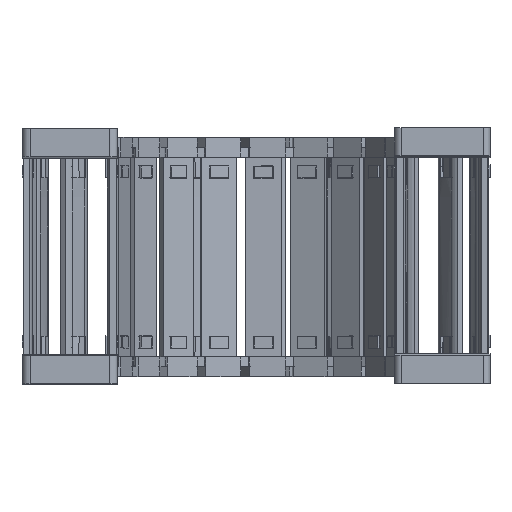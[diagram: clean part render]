
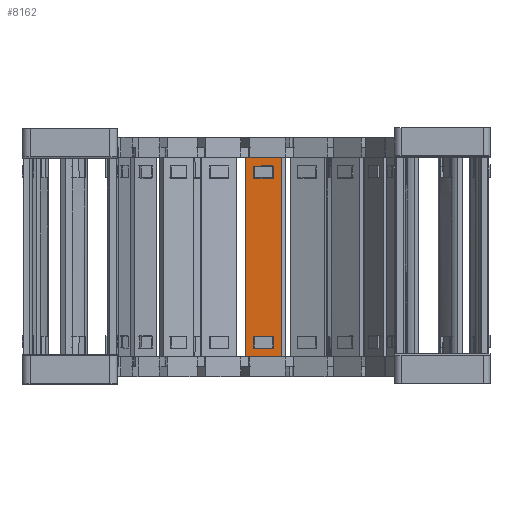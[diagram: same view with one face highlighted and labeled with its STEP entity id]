
A CAD part, top view. The second image highlights one B-rep face of the part: STEP entity #8162.
In plain terms, the highlighted planar face has unit normal (-0.044, 0, 0.999).
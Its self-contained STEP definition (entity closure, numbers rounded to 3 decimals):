
#8162=ADVANCED_FACE('',(#34153,#34154,#34155),#12009,.F.);
#12009=PLANE('',#94497);
#18798=LINE('',#136860,#28174);
#18852=LINE('',#137019,#28228);
#18917=LINE('',#137379,#28293);
#18918=LINE('',#137381,#28294);
#18922=LINE('',#137389,#28298);
#19015=LINE('',#137690,#28391);
#19049=LINE('',#137800,#28425);
#19098=LINE('',#138124,#28474);
#19102=LINE('',#138136,#28478);
#19113=LINE('',#138161,#28489);
#19117=LINE('',#138168,#28493);
#19119=LINE('',#138172,#28495);
#19124=LINE('',#138202,#28500);
#19128=LINE('',#138212,#28504);
#19133=LINE('',#138244,#28509);
#19134=LINE('',#138245,#28510);
#19135=LINE('',#138246,#28511);
#19136=LINE('',#138248,#28512);
#28174=VECTOR('',#107755,1.);
#28228=VECTOR('',#107845,1.);
#28293=VECTOR('',#108062,1.);
#28294=VECTOR('',#108065,1.);
#28298=VECTOR('',#108071,1.);
#28391=VECTOR('',#108280,1.);
#28425=VECTOR('',#108338,1.);
#28474=VECTOR('',#108521,1.);
#28478=VECTOR('',#108531,1.);
#28489=VECTOR('',#108552,1.);
#28493=VECTOR('',#108558,1.);
#28495=VECTOR('',#108562,1.);
#28500=VECTOR('',#108575,1.);
#28504=VECTOR('',#108585,1.);
#28509=VECTOR('',#108604,1.);
#28510=VECTOR('',#108605,1.);
#28511=VECTOR('',#108606,1.);
#28512=VECTOR('',#108607,1.);
#34153=FACE_BOUND('',#36376,.T.);
#34154=FACE_BOUND('',#36377,.T.);
#34155=FACE_BOUND('',#36378,.T.);
#36376=EDGE_LOOP('',(#50539,#50540,#50541,#50542,#50543,#50544));
#36377=EDGE_LOOP('',(#50545,#50546,#50547,#50548,#50549,#50550));
#36378=EDGE_LOOP('',(#50551,#50552,#50553,#50554,#50555,#50556));
#50539=ORIENTED_EDGE('',*,*,#81401,.T.);
#50540=ORIENTED_EDGE('',*,*,#81349,.F.);
#50541=ORIENTED_EDGE('',*,*,#81216,.F.);
#50542=ORIENTED_EDGE('',*,*,#81373,.F.);
#50543=ORIENTED_EDGE('',*,*,#80906,.F.);
#50544=ORIENTED_EDGE('',*,*,#81083,.F.);
#50545=ORIENTED_EDGE('',*,*,#81402,.F.);
#50546=ORIENTED_EDGE('',*,*,#81383,.T.);
#50547=ORIENTED_EDGE('',*,*,#81371,.T.);
#50548=ORIENTED_EDGE('',*,*,#81355,.F.);
#50549=ORIENTED_EDGE('',*,*,#81258,.F.);
#50550=ORIENTED_EDGE('',*,*,#81388,.F.);
#50551=ORIENTED_EDGE('',*,*,#81084,.F.);
#50552=ORIENTED_EDGE('',*,*,#81367,.T.);
#50553=ORIENTED_EDGE('',*,*,#81403,.T.);
#50554=ORIENTED_EDGE('',*,*,#81404,.F.);
#50555=ORIENTED_EDGE('',*,*,#81088,.F.);
#50556=ORIENTED_EDGE('',*,*,#80972,.F.);
#70000=VERTEX_POINT('',#136859);
#70001=VERTEX_POINT('',#136861);
#70027=VERTEX_POINT('',#136943);
#70053=VERTEX_POINT('',#137006);
#70118=VERTEX_POINT('',#137378);
#70119=VERTEX_POINT('',#137382);
#70122=VERTEX_POINT('',#137390);
#70209=VERTEX_POINT('',#137689);
#70210=VERTEX_POINT('',#137691);
#70230=VERTEX_POINT('',#137762);
#70244=VERTEX_POINT('',#137792);
#70296=VERTEX_POINT('',#138125);
#70301=VERTEX_POINT('',#138137);
#70309=VERTEX_POINT('',#138160);
#70312=VERTEX_POINT('',#138169);
#70318=VERTEX_POINT('',#138203);
#70320=VERTEX_POINT('',#138211);
#70325=VERTEX_POINT('',#138247);
#80906=EDGE_CURVE('',#70000,#70001,#18798,.T.);
#80972=EDGE_CURVE('',#70053,#70027,#18852,.T.);
#81083=EDGE_CURVE('',#70118,#70000,#18917,.T.);
#81084=EDGE_CURVE('',#70119,#70053,#18918,.T.);
#81088=EDGE_CURVE('',#70027,#70122,#18922,.T.);
#81216=EDGE_CURVE('',#70209,#70210,#19015,.T.);
#81258=EDGE_CURVE('',#70230,#70244,#19049,.T.);
#81349=EDGE_CURVE('',#70210,#70296,#19098,.T.);
#81355=EDGE_CURVE('',#70244,#70301,#19102,.T.);
#81367=EDGE_CURVE('',#70119,#70309,#19113,.T.);
#81371=EDGE_CURVE('',#70312,#70301,#19117,.T.);
#81373=EDGE_CURVE('',#70001,#70209,#19119,.T.);
#81383=EDGE_CURVE('',#70318,#70312,#19124,.T.);
#81388=EDGE_CURVE('',#70320,#70230,#19128,.T.);
#81401=EDGE_CURVE('',#70118,#70296,#19133,.T.);
#81402=EDGE_CURVE('',#70318,#70320,#19134,.T.);
#81403=EDGE_CURVE('',#70309,#70325,#19135,.T.);
#81404=EDGE_CURVE('',#70122,#70325,#19136,.T.);
#94497=AXIS2_PLACEMENT_3D('',#138249,#108608,#108609);
#107755=DIRECTION('',(0.999,0.,0.044));
#107845=DIRECTION('',(-0.999,0.,-0.044));
#108062=DIRECTION('',(0.999,0.,0.044));
#108065=DIRECTION('',(-0.999,0.,-0.044));
#108071=DIRECTION('',(-0.999,0.,-0.044));
#108280=DIRECTION('',(-0.999,0.,-0.044));
#108338=DIRECTION('',(0.999,0.,0.044));
#108521=DIRECTION('',(-0.999,0.,-0.044));
#108531=DIRECTION('',(0.999,0.,0.044));
#108552=DIRECTION('',(0.,-1.,0.));
#108558=DIRECTION('',(0.,-1.,0.));
#108562=DIRECTION('',(0.,-1.,0.));
#108575=DIRECTION('',(0.999,0.,0.044));
#108585=DIRECTION('',(0.999,0.,0.044));
#108604=DIRECTION('',(0.,-1.,0.));
#108605=DIRECTION('',(0.,-1.,0.));
#108606=DIRECTION('',(-0.999,0.,-0.044));
#108607=DIRECTION('',(0.,-1.,0.));
#108608=DIRECTION('',(0.044,0.,-0.999));
#108609=DIRECTION('',(0.999,0.,0.044));
#136859=CARTESIAN_POINT('',(402.05,134.434,711.867));
#136860=CARTESIAN_POINT('',(401.714,134.434,711.853));
#136861=CARTESIAN_POINT('',(412.104,134.434,712.306));
#136943=CARTESIAN_POINT('',(403.765,131.822,711.942));
#137006=CARTESIAN_POINT('',(409.453,131.822,712.191));
#137019=CARTESIAN_POINT('',(409.627,131.822,712.198));
#137378=CARTESIAN_POINT('',(401.114,134.434,711.827));
#137379=CARTESIAN_POINT('',(401.714,134.434,711.853));
#137381=CARTESIAN_POINT('',(409.627,131.822,712.198));
#137382=CARTESIAN_POINT('',(409.627,131.822,712.198));
#137389=CARTESIAN_POINT('',(409.627,131.822,712.198));
#137390=CARTESIAN_POINT('',(403.591,131.822,711.935));
#137689=CARTESIAN_POINT('',(412.104,73.934,712.306));
#137690=CARTESIAN_POINT('',(401.714,73.934,711.853));
#137691=CARTESIAN_POINT('',(402.05,73.934,711.867));
#137762=CARTESIAN_POINT('',(403.765,76.545,711.942));
#137792=CARTESIAN_POINT('',(409.453,76.545,712.191));
#137800=CARTESIAN_POINT('',(409.627,76.545,712.198));
#138124=CARTESIAN_POINT('',(401.714,73.934,711.853));
#138125=CARTESIAN_POINT('',(401.114,73.934,711.827));
#138136=CARTESIAN_POINT('',(409.627,76.545,712.198));
#138137=CARTESIAN_POINT('',(409.627,76.545,712.198));
#138160=CARTESIAN_POINT('',(409.627,128.15,712.198));
#138161=CARTESIAN_POINT('',(409.627,146.919,712.198));
#138168=CARTESIAN_POINT('',(409.627,61.448,712.198));
#138169=CARTESIAN_POINT('',(409.627,80.218,712.198));
#138172=CARTESIAN_POINT('',(412.104,66.448,712.306));
#138202=CARTESIAN_POINT('',(409.627,80.218,712.198));
#138203=CARTESIAN_POINT('',(403.591,80.218,711.935));
#138211=CARTESIAN_POINT('',(403.591,76.545,711.935));
#138212=CARTESIAN_POINT('',(409.627,76.545,712.198));
#138244=CARTESIAN_POINT('',(401.114,66.448,711.827));
#138245=CARTESIAN_POINT('',(403.591,61.448,711.935));
#138246=CARTESIAN_POINT('',(409.627,128.15,712.198));
#138247=CARTESIAN_POINT('',(403.591,128.15,711.935));
#138248=CARTESIAN_POINT('',(403.591,146.919,711.935));
#138249=CARTESIAN_POINT('',(399.637,66.448,711.762));
